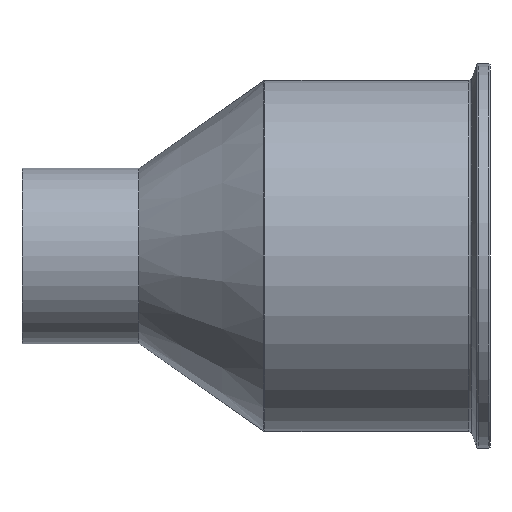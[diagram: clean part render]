
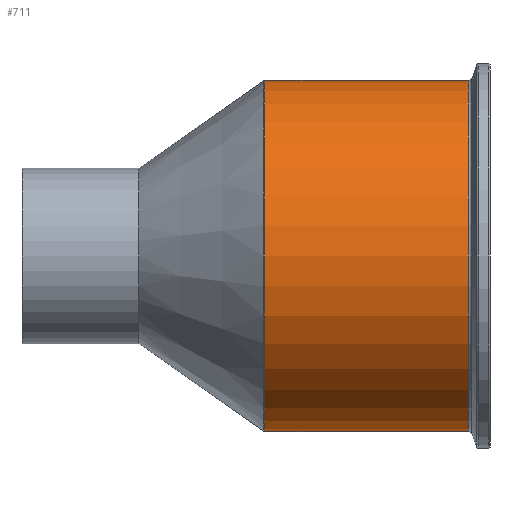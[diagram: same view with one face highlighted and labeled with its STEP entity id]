
A CAD part, front view. The second image highlights one B-rep face of the part: STEP entity #711.
In plain terms, the highlighted cylindrical face has radius 76.2 mm (diameter 152.4 mm), a partial arc.
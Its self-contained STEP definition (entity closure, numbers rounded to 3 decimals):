
#29 = DIRECTION ( 'NONE',  ( 0., 0., 1. ) ) ;
#48 = CARTESIAN_POINT ( 'NONE',  ( -12.994, 0., 0. ) ) ;
#67 = CIRCLE ( 'NONE', #563, 76.2 ) ;
#70 = CARTESIAN_POINT ( 'NONE',  ( 105.461, 0., -76.2 ) ) ;
#73 = ORIENTED_EDGE ( 'NONE', *, *, #599, .T. ) ;
#120 = DIRECTION ( 'NONE',  ( 0., 0., 1. ) ) ;
#156 = CARTESIAN_POINT ( 'NONE',  ( 193.861, 0., 76.2 ) ) ;
#189 = CIRCLE ( 'NONE', #1031, 76.2 ) ;
#217 = LINE ( 'NONE', #848, #1018 ) ;
#232 = ORIENTED_EDGE ( 'NONE', *, *, #383, .F. ) ;
#275 = CARTESIAN_POINT ( 'NONE',  ( 105.461, 0., 76.2 ) ) ;
#283 = EDGE_LOOP ( 'NONE', ( #232, #73, #628, #759 ) ) ;
#383 = EDGE_CURVE ( 'NONE', #1019, #541, #217, .T. ) ;
#436 = CARTESIAN_POINT ( 'NONE',  ( 193.861, 0., 0. ) ) ;
#441 = DIRECTION ( 'NONE',  ( -1., 0., 0. ) ) ;
#445 = DIRECTION ( 'NONE',  ( 0., 0., 1. ) ) ;
#500 = DIRECTION ( 'NONE',  ( -1., 0., 0. ) ) ;
#510 = EDGE_CURVE ( 'NONE', #578, #541, #67, .T. ) ;
#541 = VERTEX_POINT ( 'NONE', #70 ) ;
#563 = AXIS2_PLACEMENT_3D ( 'NONE', #1091, #1105, #29 ) ;
#578 = VERTEX_POINT ( 'NONE', #275 ) ;
#599 = EDGE_CURVE ( 'NONE', #1019, #1006, #189, .T. ) ;
#628 = ORIENTED_EDGE ( 'NONE', *, *, #940, .T. ) ;
#711 = ADVANCED_FACE ( 'NONE', ( #778 ), #821, .T. ) ;
#717 = CARTESIAN_POINT ( 'NONE',  ( 193.861, 0., -76.2 ) ) ;
#745 = CARTESIAN_POINT ( 'NONE',  ( -12.994, 0., 76.2 ) ) ;
#759 = ORIENTED_EDGE ( 'NONE', *, *, #510, .T. ) ;
#778 = FACE_OUTER_BOUND ( 'NONE', #283, .T. ) ;
#804 = VECTOR ( 'NONE', #819, 1000. ) ;
#819 = DIRECTION ( 'NONE',  ( -1., 0., 0. ) ) ;
#821 = CYLINDRICAL_SURFACE ( 'NONE', #828, 76.2 ) ;
#828 = AXIS2_PLACEMENT_3D ( 'NONE', #48, #892, #120 ) ;
#848 = CARTESIAN_POINT ( 'NONE',  ( -12.994, 0., -76.2 ) ) ;
#892 = DIRECTION ( 'NONE',  ( -1., 0., 0. ) ) ;
#940 = EDGE_CURVE ( 'NONE', #1006, #578, #1021, .T. ) ;
#1006 = VERTEX_POINT ( 'NONE', #156 ) ;
#1018 = VECTOR ( 'NONE', #500, 1000. ) ;
#1019 = VERTEX_POINT ( 'NONE', #717 ) ;
#1021 = LINE ( 'NONE', #745, #804 ) ;
#1031 = AXIS2_PLACEMENT_3D ( 'NONE', #436, #441, #445 ) ;
#1091 = CARTESIAN_POINT ( 'NONE',  ( 105.461, 0., 0. ) ) ;
#1105 = DIRECTION ( 'NONE',  ( 1., 0., 0. ) ) ;
